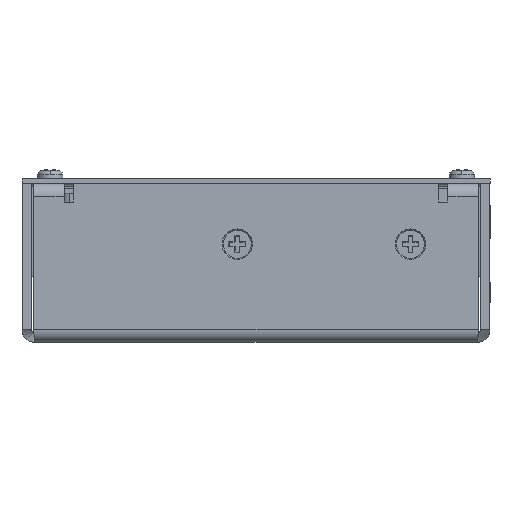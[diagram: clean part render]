
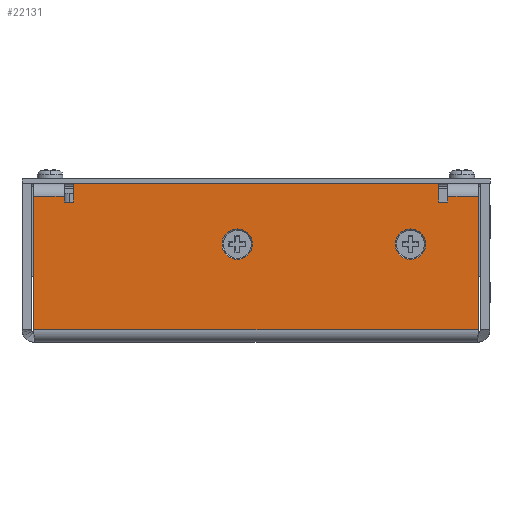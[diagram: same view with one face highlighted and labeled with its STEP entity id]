
A CAD part, front view. The second image highlights one B-rep face of the part: STEP entity #22131.
In plain terms, the highlighted planar face has unit normal (0, -1, 0).
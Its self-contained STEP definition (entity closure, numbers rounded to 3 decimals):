
#15243 = AXIS2_PLACEMENT_3D ( 'NONE', #24677, #24678, #24679 ) ;
#15245 = AXIS2_PLACEMENT_3D ( 'NONE', #24687, #24688, #24689 ) ;
#15293 = AXIS2_PLACEMENT_3D ( 'NONE', #25115, #25116, #25117 ) ;
#15295 = AXIS2_PLACEMENT_3D ( 'NONE', #25123, #25124, #25125 ) ;
#22131 = ADVANCED_FACE ( 'NONE', ( #72801, #72805, #72802 ), #72327, .F. ) ;
#23058 = CIRCLE ( 'NONE', #15243, 3.25 ) ;
#23069 = CIRCLE ( 'NONE', #15245, 3.25 ) ;
#23999 = CARTESIAN_POINT ( 'NONE',  ( -169.845, -74.575, 22.2 ) ) ;
#24004 = CARTESIAN_POINT ( 'NONE',  ( -89.845, -74.575, 22.2 ) ) ;
#24005 = CARTESIAN_POINT ( 'NONE',  ( -91.845, -74.575, 26.2 ) ) ;
#24009 = CARTESIAN_POINT ( 'NONE',  ( -91.845, -74.575, 22.2 ) ) ;
#24011 = CARTESIAN_POINT ( 'NONE',  ( -89.845, -74.575, 23.463 ) ) ;
#24012 = CARTESIAN_POINT ( 'NONE',  ( -178.345, -74.575, 23.463 ) ) ;
#24016 = CARTESIAN_POINT ( 'NONE',  ( -169.845, -74.575, 26.2 ) ) ;
#24677 = CARTESIAN_POINT ( 'NONE',  ( -97.845, -74.575, 13.2 ) ) ;
#24678 = DIRECTION ( 'NONE',  ( 0., 1., 0. ) ) ;
#24679 = DIRECTION ( 'NONE',  ( 0., 0., 1. ) ) ;
#24687 = CARTESIAN_POINT ( 'NONE',  ( -134.845, -74.575, 13.2 ) ) ;
#24688 = DIRECTION ( 'NONE',  ( 0., 1., 0. ) ) ;
#24689 = DIRECTION ( 'NONE',  ( 0., 0., 1. ) ) ;
#25056 = CARTESIAN_POINT ( 'NONE',  ( -171.845, -74.575, 26.2 ) ) ;
#25058 = DIRECTION ( 'NONE',  ( 0., 0., 1. ) ) ;
#25060 = CARTESIAN_POINT ( 'NONE',  ( -169.845, -74.575, 26.2 ) ) ;
#25062 = CARTESIAN_POINT ( 'NONE',  ( -91.845, -74.575, 22.2 ) ) ;
#25064 = CARTESIAN_POINT ( 'NONE',  ( -178.345, -74.575, 22.2 ) ) ;
#25065 = DIRECTION ( 'NONE',  ( -1., 0., 0. ) ) ;
#25071 = DIRECTION ( 'NONE',  ( 0., 0., 1. ) ) ;
#25075 = DIRECTION ( 'NONE',  ( 0., 0., 1. ) ) ;
#25080 = CARTESIAN_POINT ( 'NONE',  ( -89.845, -74.575, 22.2 ) ) ;
#25082 = DIRECTION ( 'NONE',  ( 1., 0., 0. ) ) ;
#25089 = CARTESIAN_POINT ( 'NONE',  ( -89.845, -74.575, 22.2 ) ) ;
#25090 = DIRECTION ( 'NONE',  ( 0., 0., 1. ) ) ;
#25105 = CARTESIAN_POINT ( 'NONE',  ( -83.345, -74.575, 23.463 ) ) ;
#25109 = DIRECTION ( 'NONE',  ( -1., 0., 0. ) ) ;
#25115 = CARTESIAN_POINT ( 'NONE',  ( -134.845, -74.575, 13.2 ) ) ;
#25116 = DIRECTION ( 'NONE',  ( 0., 1., 0. ) ) ;
#25117 = DIRECTION ( 'NONE',  ( 0., 0., 1. ) ) ;
#25118 = CARTESIAN_POINT ( 'NONE',  ( -171.845, -74.575, 23.463 ) ) ;
#25119 = DIRECTION ( 'NONE',  ( -1., 0., 0. ) ) ;
#25123 = CARTESIAN_POINT ( 'NONE',  ( -97.845, -74.575, 13.2 ) ) ;
#25124 = DIRECTION ( 'NONE',  ( 0., 1., 0. ) ) ;
#25125 = DIRECTION ( 'NONE',  ( 0., 0., 1. ) ) ;
#25126 = CARTESIAN_POINT ( 'NONE',  ( -178.345, -74.575, -7.8 ) ) ;
#25127 = DIRECTION ( 'NONE',  ( 0., 0., -1. ) ) ;
#25128 = CARTESIAN_POINT ( 'NONE',  ( -178.345, -74.575, -5.063 ) ) ;
#25129 = DIRECTION ( 'NONE',  ( 1., 0., 0. ) ) ;
#25130 = CARTESIAN_POINT ( 'NONE',  ( -83.345, -74.575, -7.8 ) ) ;
#25131 = DIRECTION ( 'NONE',  ( 0., 0., 1. ) ) ;
#25132 = CARTESIAN_POINT ( 'NONE',  ( -178.345, -74.575, 26.2 ) ) ;
#25133 = DIRECTION ( 'NONE',  ( -1., 0., 0. ) ) ;
#25771 = LINE ( 'NONE', #25056, #25774 ) ;
#25774 = VECTOR ( 'NONE', #25058, 1000. ) ;
#25777 = LINE ( 'NONE', #25060, #25788 ) ;
#25779 = LINE ( 'NONE', #25064, #25782 ) ;
#25782 = VECTOR ( 'NONE', #25065, 1000. ) ;
#25785 = LINE ( 'NONE', #25062, #25792 ) ;
#25788 = VECTOR ( 'NONE', #25071, 1000. ) ;
#25792 = VECTOR ( 'NONE', #25075, 1000. ) ;
#25795 = LINE ( 'NONE', #25080, #25798 ) ;
#25798 = VECTOR ( 'NONE', #25082, 1000. ) ;
#25805 = LINE ( 'NONE', #25089, #25808 ) ;
#25808 = VECTOR ( 'NONE', #25090, 1000. ) ;
#25813 = LINE ( 'NONE', #25105, #25820 ) ;
#25820 = VECTOR ( 'NONE', #25109, 1000. ) ;
#25823 = CIRCLE ( 'NONE', #15293, 3.25 ) ;
#25825 = CIRCLE ( 'NONE', #15295, 3.25 ) ;
#25826 = LINE ( 'NONE', #25118, #25828 ) ;
#25827 = LINE ( 'NONE', #25126, #25830 ) ;
#25828 = VECTOR ( 'NONE', #25119, 1000. ) ;
#25829 = LINE ( 'NONE', #25128, #25832 ) ;
#25830 = VECTOR ( 'NONE', #25127, 1000. ) ;
#25831 = LINE ( 'NONE', #25130, #25834 ) ;
#25832 = VECTOR ( 'NONE', #25129, 1000. ) ;
#25833 = LINE ( 'NONE', #25132, #25836 ) ;
#25834 = VECTOR ( 'NONE', #25131, 1000. ) ;
#25836 = VECTOR ( 'NONE', #25133, 1000. ) ;
#31642 = VERTEX_POINT ( 'NONE', #23999 ) ;
#31654 = VERTEX_POINT ( 'NONE', #24005 ) ;
#31673 = VERTEX_POINT ( 'NONE', #24004 ) ;
#31679 = VERTEX_POINT ( 'NONE', #24011 ) ;
#31680 = VERTEX_POINT ( 'NONE', #24009 ) ;
#31684 = VERTEX_POINT ( 'NONE', #24012 ) ;
#31706 = VERTEX_POINT ( 'NONE', #24016 ) ;
#36899 = EDGE_LOOP ( 'NONE', ( #38971, #38972 ) ) ;
#36901 = EDGE_LOOP ( 'NONE', ( #38975, #38976, #38977, #38978, #38979, #40234, #40235, #40237, #40239, #40240, #40242, #40244 ) ) ;
#36903 = EDGE_LOOP ( 'NONE', ( #38973, #38974 ) ) ;
#37602 = EDGE_CURVE ( 'NONE', #53758, #53760, #23058, .T. ) ;
#37606 = EDGE_CURVE ( 'NONE', #53772, #53734, #23069, .T. ) ;
#37745 = EDGE_CURVE ( 'NONE', #51182, #51172, #25771, .T. ) ;
#37749 = EDGE_CURVE ( 'NONE', #31642, #51182, #25779, .T. ) ;
#37752 = EDGE_CURVE ( 'NONE', #31642, #31706, #25777, .T. ) ;
#37754 = EDGE_CURVE ( 'NONE', #31680, #31654, #25785, .T. ) ;
#37757 = EDGE_CURVE ( 'NONE', #31680, #31673, #25795, .T. ) ;
#37762 = EDGE_CURVE ( 'NONE', #31673, #31679, #25805, .T. ) ;
#37770 = EDGE_CURVE ( 'NONE', #45565, #31679, #25813, .T. ) ;
#37773 = EDGE_CURVE ( 'NONE', #53734, #53772, #25823, .T. ) ;
#37775 = EDGE_CURVE ( 'NONE', #53760, #53758, #25825, .T. ) ;
#37776 = EDGE_CURVE ( 'NONE', #51172, #31684, #25826, .T. ) ;
#37777 = EDGE_CURVE ( 'NONE', #31684, #51226, #25827, .T. ) ;
#37778 = EDGE_CURVE ( 'NONE', #51226, #45575, #25829, .T. ) ;
#37779 = EDGE_CURVE ( 'NONE', #45575, #45565, #25831, .T. ) ;
#37780 = EDGE_CURVE ( 'NONE', #31654, #31706, #25833, .T. ) ;
#38971 = ORIENTED_EDGE ( 'NONE', *, *, #37602, .T. ) ;
#38972 = ORIENTED_EDGE ( 'NONE', *, *, #37775, .T. ) ;
#38973 = ORIENTED_EDGE ( 'NONE', *, *, #37606, .T. ) ;
#38974 = ORIENTED_EDGE ( 'NONE', *, *, #37773, .T. ) ;
#38975 = ORIENTED_EDGE ( 'NONE', *, *, #37776, .T. ) ;
#38976 = ORIENTED_EDGE ( 'NONE', *, *, #37777, .T. ) ;
#38977 = ORIENTED_EDGE ( 'NONE', *, *, #37778, .T. ) ;
#38978 = ORIENTED_EDGE ( 'NONE', *, *, #37779, .T. ) ;
#38979 = ORIENTED_EDGE ( 'NONE', *, *, #37770, .T. ) ;
#40234 = ORIENTED_EDGE ( 'NONE', *, *, #37762, .F. ) ;
#40235 = ORIENTED_EDGE ( 'NONE', *, *, #37757, .F. ) ;
#40237 = ORIENTED_EDGE ( 'NONE', *, *, #37754, .T. ) ;
#40239 = ORIENTED_EDGE ( 'NONE', *, *, #37780, .T. ) ;
#40240 = ORIENTED_EDGE ( 'NONE', *, *, #37752, .F. ) ;
#40242 = ORIENTED_EDGE ( 'NONE', *, *, #37749, .T. ) ;
#40244 = ORIENTED_EDGE ( 'NONE', *, *, #37745, .T. ) ;
#45565 = VERTEX_POINT ( 'NONE', #64929 ) ;
#45575 = VERTEX_POINT ( 'NONE', #64948 ) ;
#51172 = VERTEX_POINT ( 'NONE', #67190 ) ;
#51182 = VERTEX_POINT ( 'NONE', #67192 ) ;
#51226 = VERTEX_POINT ( 'NONE', #67216 ) ;
#53734 = VERTEX_POINT ( 'NONE', #68120 ) ;
#53758 = VERTEX_POINT ( 'NONE', #68144 ) ;
#53760 = VERTEX_POINT ( 'NONE', #68146 ) ;
#53772 = VERTEX_POINT ( 'NONE', #68158 ) ;
#63170 = AXIS2_PLACEMENT_3D ( 'NONE', #72333, #72334, #72335 ) ;
#64929 = CARTESIAN_POINT ( 'NONE',  ( -83.345, -74.575, 23.463 ) ) ;
#64948 = CARTESIAN_POINT ( 'NONE',  ( -83.345, -74.575, -5.063 ) ) ;
#67190 = CARTESIAN_POINT ( 'NONE',  ( -171.845, -74.575, 23.463 ) ) ;
#67192 = CARTESIAN_POINT ( 'NONE',  ( -171.845, -74.575, 22.2 ) ) ;
#67216 = CARTESIAN_POINT ( 'NONE',  ( -178.345, -74.575, -5.063 ) ) ;
#68120 = CARTESIAN_POINT ( 'NONE',  ( -134.845, -74.575, 16.45 ) ) ;
#68144 = CARTESIAN_POINT ( 'NONE',  ( -97.845, -74.575, 9.95 ) ) ;
#68146 = CARTESIAN_POINT ( 'NONE',  ( -97.845, -74.575, 16.45 ) ) ;
#68158 = CARTESIAN_POINT ( 'NONE',  ( -134.845, -74.575, 9.95 ) ) ;
#72327 = PLANE ( 'NONE',  #63170 ) ;
#72333 = CARTESIAN_POINT ( 'NONE',  ( -178.345, -74.575, 26.2 ) ) ;
#72334 = DIRECTION ( 'NONE',  ( 0., 1., 0. ) ) ;
#72335 = DIRECTION ( 'NONE',  ( 0., 0., 1. ) ) ;
#72801 = FACE_BOUND ( 'NONE', #36899, .T. ) ;
#72802 = FACE_OUTER_BOUND ( 'NONE', #36901, .T. ) ;
#72805 = FACE_BOUND ( 'NONE', #36903, .T. ) ;
